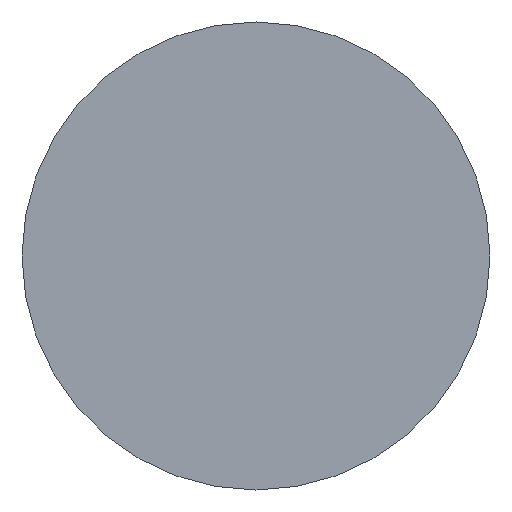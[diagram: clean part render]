
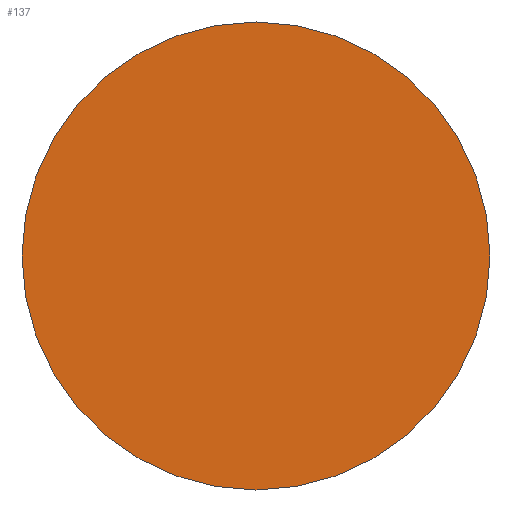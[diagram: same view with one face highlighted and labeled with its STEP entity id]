
A CAD part, left-side view. The second image highlights one B-rep face of the part: STEP entity #137.
In plain terms, the highlighted planar face has unit normal (-1, 0, 0).
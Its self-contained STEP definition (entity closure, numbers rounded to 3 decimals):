
#13 = ORIENTED_EDGE ( 'NONE', *, *, #50, .T. ) ;
#16 = FACE_OUTER_BOUND ( 'NONE', #19, .T. ) ;
#19 = EDGE_LOOP ( 'NONE', ( #13, #28 ) ) ;
#28 = ORIENTED_EDGE ( 'NONE', *, *, #51, .T. ) ;
#32 = CIRCLE ( 'NONE', #49, 5.5 ) ;
#34 = CIRCLE ( 'NONE', #55, 5.5 ) ;
#49 = AXIS2_PLACEMENT_3D ( 'NONE', #132, #131, #125 ) ;
#50 = EDGE_CURVE ( 'NONE', #133, #128, #32, .T. ) ;
#51 = EDGE_CURVE ( 'NONE', #128, #133, #34, .T. ) ;
#55 = AXIS2_PLACEMENT_3D ( 'NONE', #124, #122, #121 ) ;
#68 = AXIS2_PLACEMENT_3D ( 'NONE', #96, #92, #91 ) ;
#91 = DIRECTION ( 'NONE',  ( 0., 0., 1. ) ) ;
#92 = DIRECTION ( 'NONE',  ( -1., 0., 0. ) ) ;
#95 = PLANE ( 'NONE',  #68 ) ;
#96 = CARTESIAN_POINT ( 'NONE',  ( -195., 0., 0. ) ) ;
#107 = CARTESIAN_POINT ( 'NONE',  ( -195., 0., 5.5 ) ) ;
#111 = CARTESIAN_POINT ( 'NONE',  ( -195., 0., -5.5 ) ) ;
#121 = DIRECTION ( 'NONE',  ( 0., 0., 1. ) ) ;
#122 = DIRECTION ( 'NONE',  ( -1., 0., 0. ) ) ;
#124 = CARTESIAN_POINT ( 'NONE',  ( -195., 0., 0. ) ) ;
#125 = DIRECTION ( 'NONE',  ( 0., 0., 1. ) ) ;
#128 = VERTEX_POINT ( 'NONE', #111 ) ;
#131 = DIRECTION ( 'NONE',  ( -1., 0., 0. ) ) ;
#132 = CARTESIAN_POINT ( 'NONE',  ( -195., 0., 0. ) ) ;
#133 = VERTEX_POINT ( 'NONE', #107 ) ;
#137 = ADVANCED_FACE ( 'NONE', ( #16 ), #95, .T. ) ;
